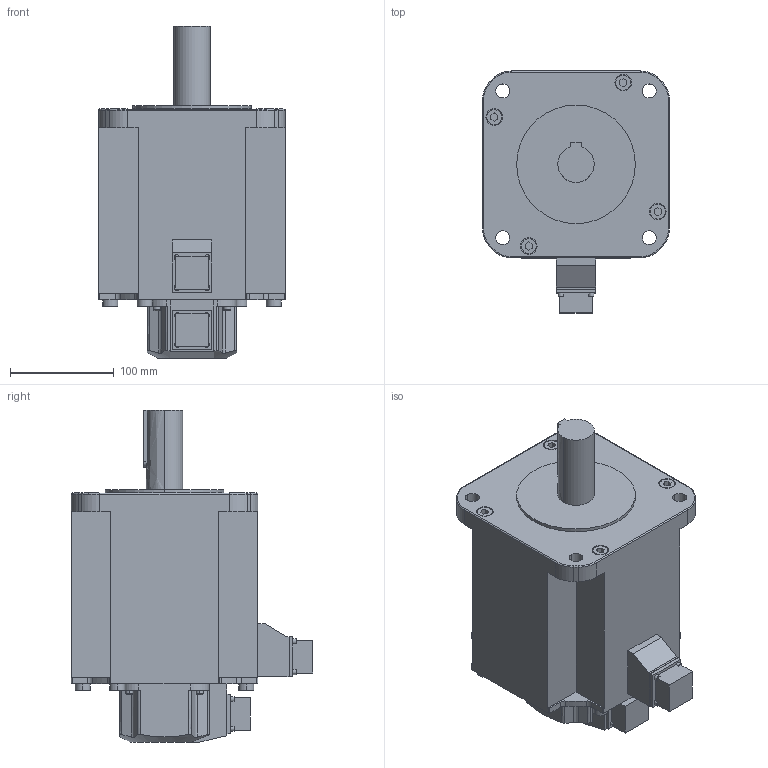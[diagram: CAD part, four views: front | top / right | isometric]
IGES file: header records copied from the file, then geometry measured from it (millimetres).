
Start section:  PTC IGES file: rsmh_30atk3.igs
Global section: file name: rsmh_30atk3.igs; native system: Pro/ENGINEER by Parametric Technology Corporation; preprocessor: 2004440; author: Administrator; organization: Unknown; date: 070829.192538; units: millimetre
Bounding box: 180 x 233 x 320 mm (x, y, z)
Volume: 5580861.6 mm3; surface area: 241956.5 mm2
Topology: 1 solids, 1 shells, 290 faces, 744 edges, 488 vertices
Faces by surface type: bspline 164, revolution 126
